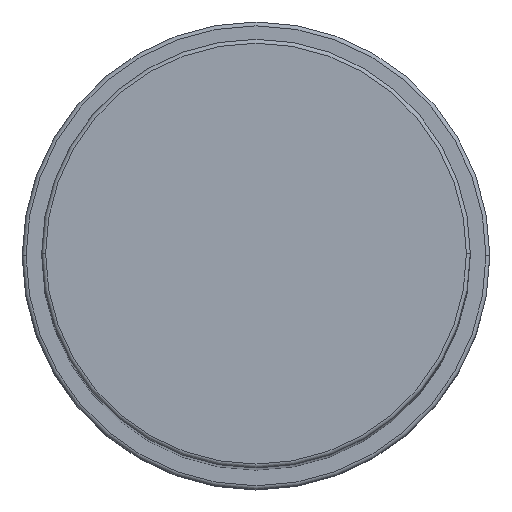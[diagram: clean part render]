
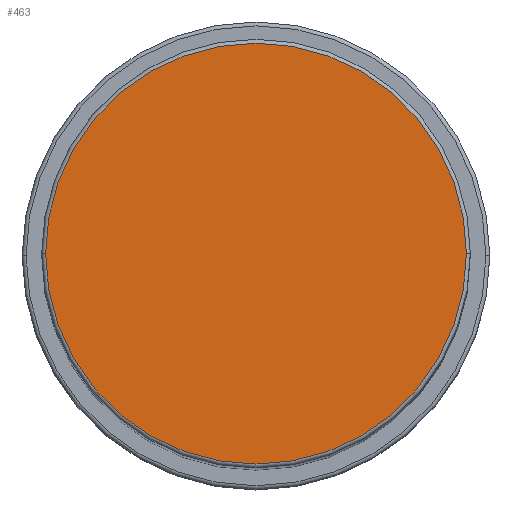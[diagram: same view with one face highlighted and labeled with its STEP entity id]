
A CAD part, top view. The second image highlights one B-rep face of the part: STEP entity #463.
In plain terms, the highlighted planar face has unit normal (0, 0, 1).
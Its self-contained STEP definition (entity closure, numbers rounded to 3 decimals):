
#3 = EDGE_CURVE ( 'NONE', #1496, #5, #1723, .T. ) ;
#5 = VERTEX_POINT ( 'NONE', #336 ) ;
#50 = AXIS2_PLACEMENT_3D ( 'NONE', #462, #1632, #1616 ) ;
#165 = EDGE_LOOP ( 'NONE', ( #1474, #1764 ) ) ;
#179 = AXIS2_PLACEMENT_3D ( 'NONE', #457, #878, #181 ) ;
#181 = DIRECTION ( 'NONE',  ( 1., 0., 0. ) ) ;
#336 = CARTESIAN_POINT ( 'NONE',  ( 27., 0., 173. ) ) ;
#355 = DIRECTION ( 'NONE',  ( 0., 0., 1. ) ) ;
#457 = CARTESIAN_POINT ( 'NONE',  ( 0., 0., 173. ) ) ;
#462 = CARTESIAN_POINT ( 'NONE',  ( 0., 0., 173. ) ) ;
#463 = ADVANCED_FACE ( 'NONE', ( #991 ), #1189, .T. ) ;
#522 = CIRCLE ( 'NONE', #179, 27. ) ;
#878 = DIRECTION ( 'NONE',  ( 0., 0., 1. ) ) ;
#991 = FACE_OUTER_BOUND ( 'NONE', #165, .T. ) ;
#1189 = PLANE ( 'NONE',  #1461 ) ;
#1195 = CARTESIAN_POINT ( 'NONE',  ( 0., 0., 173. ) ) ;
#1341 = DIRECTION ( 'NONE',  ( 1., 0., 0. ) ) ;
#1461 = AXIS2_PLACEMENT_3D ( 'NONE', #1195, #355, #1341 ) ;
#1474 = ORIENTED_EDGE ( 'NONE', *, *, #1687, .T. ) ;
#1496 = VERTEX_POINT ( 'NONE', #1619 ) ;
#1616 = DIRECTION ( 'NONE',  ( 1., 0., 0. ) ) ;
#1619 = CARTESIAN_POINT ( 'NONE',  ( -27., 0., 173. ) ) ;
#1632 = DIRECTION ( 'NONE',  ( 0., 0., 1. ) ) ;
#1687 = EDGE_CURVE ( 'NONE', #5, #1496, #522, .T. ) ;
#1723 = CIRCLE ( 'NONE', #50, 27. ) ;
#1764 = ORIENTED_EDGE ( 'NONE', *, *, #3, .T. ) ;
